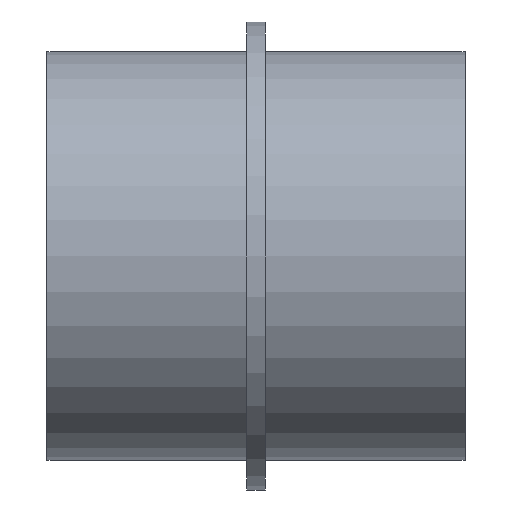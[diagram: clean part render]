
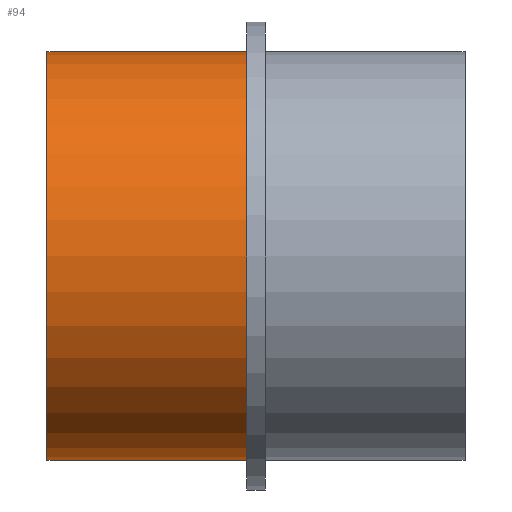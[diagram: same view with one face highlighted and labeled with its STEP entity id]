
A CAD part, front view. The second image highlights one B-rep face of the part: STEP entity #94.
In plain terms, the highlighted cylindrical face has radius 45 mm (diameter 90 mm), a full revolution.
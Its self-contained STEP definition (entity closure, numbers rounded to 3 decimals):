
#18=FACE_BOUND($,#35,.T.);
#28=FACE_OUTER_BOUND($,#34,.T.);
#34=EDGE_LOOP($,(#74));
#35=EDGE_LOOP($,(#75));
#50=CIRCLE($,#106,45.);
#51=CIRCLE($,#107,45.);
#58=VERTEX_POINT($,#157);
#59=VERTEX_POINT($,#159);
#66=EDGE_CURVE($,#58,#58,#50,.T.);
#67=EDGE_CURVE($,#59,#59,#51,.T.);
#74=ORIENTED_EDGE($,*,*,#66,.F.);
#75=ORIENTED_EDGE($,*,*,#67,.T.);
#90=CYLINDRICAL_SURFACE($,#105,45.);
#94=ADVANCED_FACE($,(#28,#18),#90,.T.);
#105=AXIS2_PLACEMENT_3D($,#156,#123,#124);
#106=AXIS2_PLACEMENT_3D($,#158,#125,#126);
#107=AXIS2_PLACEMENT_3D($,#160,#127,#128);
#123=DIRECTION('center_axis',(1.,0.,0.));
#124=DIRECTION('ref_axis',(0.,1.,0.));
#125=DIRECTION('center_axis',(1.,0.,0.));
#126=DIRECTION('ref_axis',(0.,1.,0.));
#127=DIRECTION('center_axis',(1.,0.,0.));
#128=DIRECTION('ref_axis',(0.,1.,0.));
#156=CARTESIAN_POINT('Origin',(22.,0.,0.));
#157=CARTESIAN_POINT('',(44.,45.,0.));
#158=CARTESIAN_POINT('Origin',(44.,0.,0.));
#159=CARTESIAN_POINT('',(0.,45.,0.));
#160=CARTESIAN_POINT('Origin',(0.,0.,
0.));
